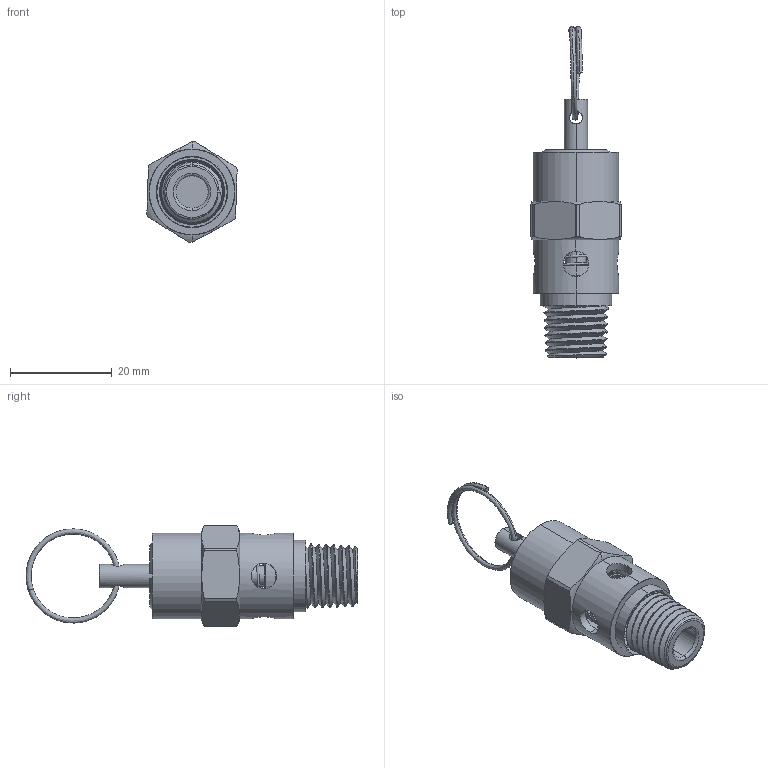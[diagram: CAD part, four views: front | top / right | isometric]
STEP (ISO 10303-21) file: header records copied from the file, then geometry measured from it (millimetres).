
FILE_DESCRIPTION (( 'STEP AP203' ), '1' );
FILE_NAME ('CVH2-SERIES.STEP', '2018-01-19T20:12:30', ( '' ), ( '' ), 'SwSTEP 2.0', 'SolidWorks 2017', '' );
FILE_SCHEMA (( 'CONFIG_CONTROL_DESIGN' ));
Length unit declared in the file: inch
Products named in the file (1): CVH2-SERIES
Bounding box: 17.77 x 65.36 x 19.81 mm (x, y, z)
Volume: 4867.8 mm3; surface area: 5273.8 mm2
Topology: 2 solids, 2 shells, 116 faces, 311 edges, 202 vertices
Faces by surface type: plane 30, cylinder 29, cone 27, bspline 19, torus 11
Entity records: 13166 total; most frequent: CARTESIAN_POINT 10350, ORIENTED_EDGE 622, DIRECTION 505, EDGE_CURVE 311, AXIS2_PLACEMENT_3D 206, VERTEX_POINT 202, EDGE_LOOP 129, ADVANCED_FACE 116
